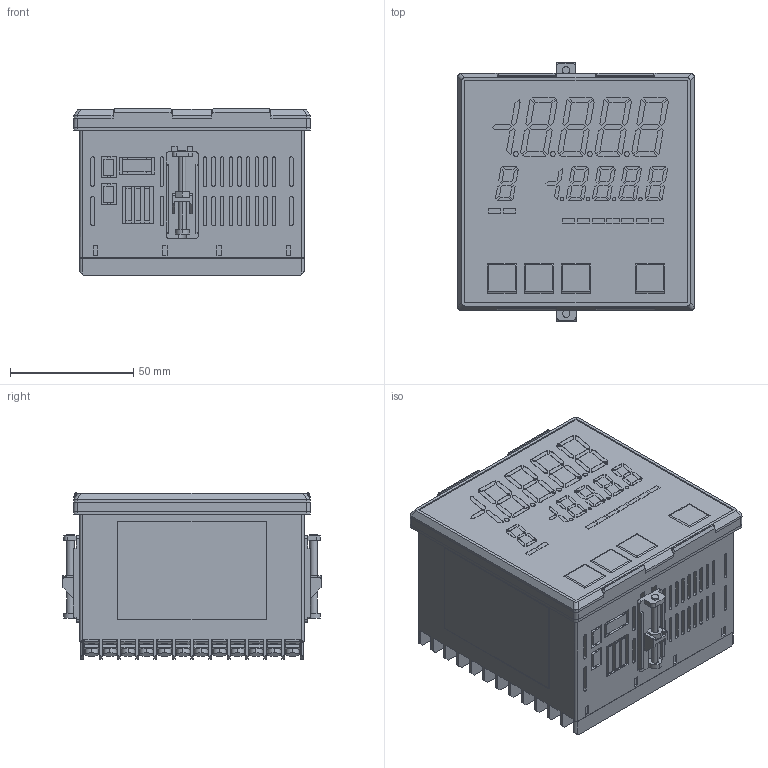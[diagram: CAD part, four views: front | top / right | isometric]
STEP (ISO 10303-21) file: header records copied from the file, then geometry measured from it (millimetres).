
FILE_DESCRIPTION (( 'STEP AP203' ), '1' );
FILE_NAME ('AD_BCD2_141107.STEP', '2014-11-28T09:04:20', ( 'soyama' ), ( 'Hewlett-Packard Company' ), 'SwSTEP 2.0', 'SolidWorks 2013', '' );
FILE_SCHEMA (( 'CONFIG_CONTROL_DESIGN' ));
Length unit declared in the file: millimetre
Products named in the file (6): BCD2_141107; 僈僗働僢僩A_BCD2_141101; 取付具_BCD2_141029; 取付ネジ_BCD2_141029; AD_取付具_BCD2_141029; AD_BCD2_141107
Assembly tree (6 placements, depth 3):
  AD_BCD2_141107
    BCD2_141107
    僈僗働僢僩A_BCD2_141101
    AD_取付具_BCD2_141029  x2
      取付具_BCD2_141029
      取付ネジ_BCD2_141029
Bounding box: 96 x 104.95 x 67.5 mm (x, y, z)
Volume: 508689.8 mm3; surface area: 75317 mm2
Topology: 6 solids, 6 shells, 2264 faces, 5896 edges, 3924 vertices
Faces by surface type: plane 1689, cylinder 575
Entity records: 66765 total; most frequent: CARTESIAN_POINT 11865, ORIENTED_EDGE 11306, DIRECTION 10953, EDGE_CURVE 5653, LINE 4545, VECTOR 4545, VERTEX_POINT 3764, AXIS2_PLACEMENT_3D 3204
